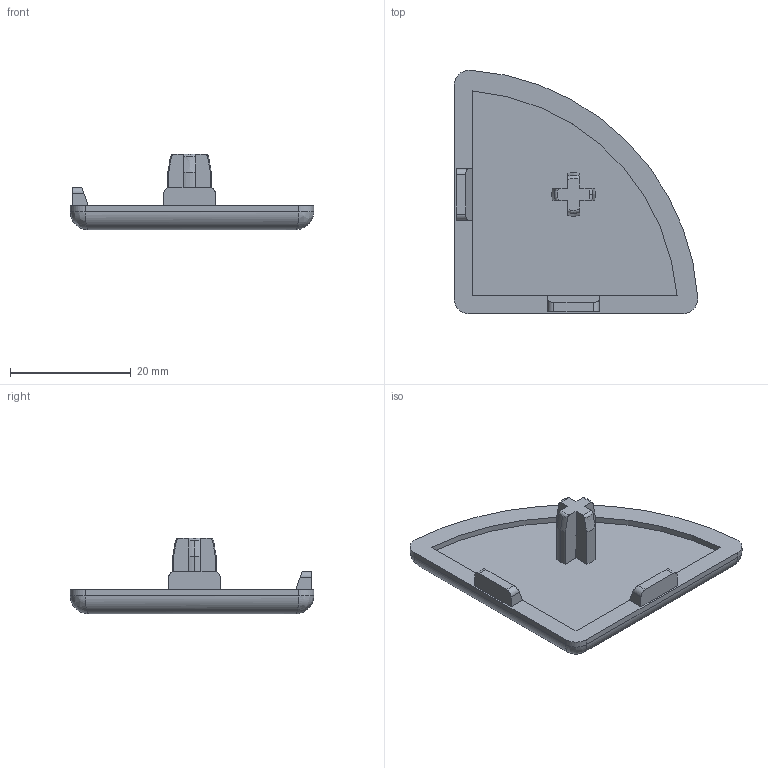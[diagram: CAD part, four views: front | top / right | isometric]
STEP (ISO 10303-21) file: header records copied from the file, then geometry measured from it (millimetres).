
FILE_DESCRIPTION (( 'STEP AP203' ), '1' );
FILE_NAME ('421041_Abdeckkappe 8 R40-90°.step', '2022-06-24T07:27:22', ( '' ), ( '' ), 'SwSTEP 2.0', 'SolidWorks 2021', '' );
FILE_SCHEMA (( 'CONFIG_CONTROL_DESIGN' ));
Length unit declared in the file: millimetre
Products named in the file (1): 421041_Abdeckkappe 8 R40-90°
Bounding box: 40.31 x 40.31 x 12.5 mm (x, y, z)
Volume: 4317.3 mm3; surface area: 3412.8 mm2
Topology: 1 solids, 1 shells, 56 faces, 145 edges, 90 vertices
Faces by surface type: plane 26, cylinder 16, bspline 9, cone 5
Entity records: 2145 total; most frequent: CARTESIAN_POINT 799, ORIENTED_EDGE 284, DIRECTION 237, EDGE_CURVE 142, VERTEX_POINT 90, VECTOR 79, AXIS2_PLACEMENT_3D 79, LINE 79
